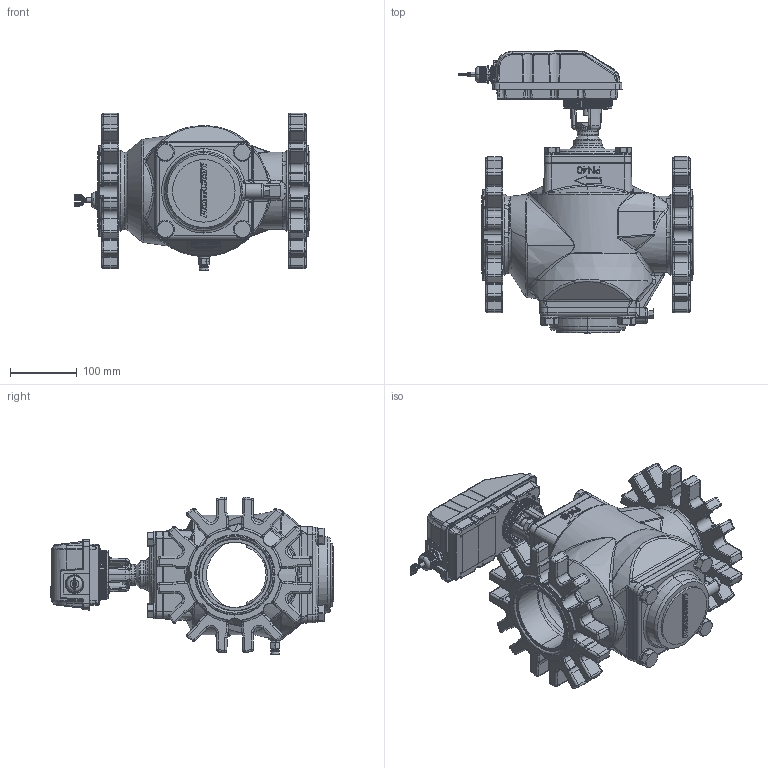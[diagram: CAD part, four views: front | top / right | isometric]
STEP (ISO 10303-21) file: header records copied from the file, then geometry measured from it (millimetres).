
FILE_DESCRIPTION (( 'STEP AP203' ), '1' );
FILE_NAME ('SM.4.3.B.3.0.0.0.STEP', '2025-09-25T06:47:05', ( '' ), ( '' ), 'SwSTEP 2.0', 'SolidWorks 2025', '' );
FILE_SCHEMA (( 'CONFIG_CONTROL_DESIGN' ));
Length unit declared in the file: millimetre
Products named in the file (1): SM.4.3.B.3.0.0.0
Bounding box: 354.39 x 426.1 x 237.52 mm (x, y, z)
Surface area: 602277.5 mm2 (no closed solid volume)
Topology: 0 solids, 143 shells, 4109 faces, 13038 edges, 8682 vertices
Faces by surface type: cylinder 1296, plane 810, bspline 789, torus 569, sphere 327, cone 318
Entity records: 197464 total; most frequent: CARTESIAN_POINT 93527, ORIENTED_EDGE 21470, DIRECTION 20109, EDGE_CURVE 12789, VERTEX_POINT 8648, AXIS2_PLACEMENT_3D 8049, CIRCLE 4728, EDGE_LOOP 4365
